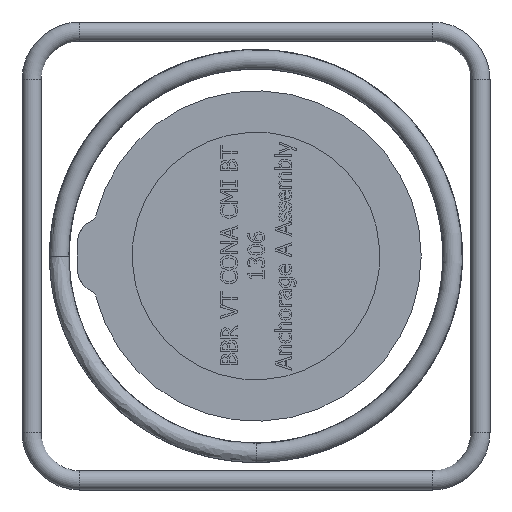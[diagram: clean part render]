
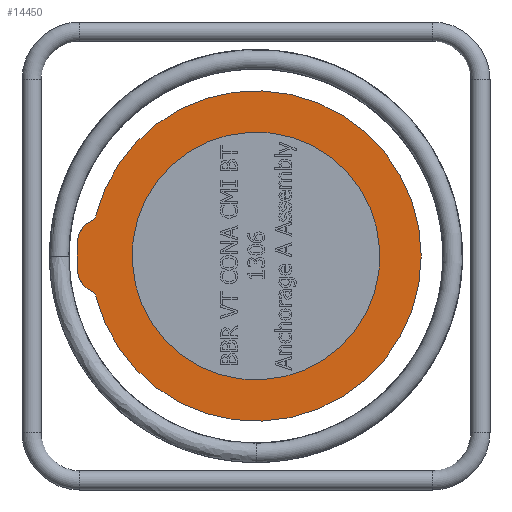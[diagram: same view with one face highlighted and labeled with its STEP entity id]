
A CAD part, left-side view. The second image highlights one B-rep face of the part: STEP entity #14450.
In plain terms, the highlighted planar face has unit normal (-1, 0, 0).
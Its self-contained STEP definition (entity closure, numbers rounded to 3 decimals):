
#2863=PLANE('',#15005);
#3659=FACE_BOUND('',#5274,.T.);
#4384=FACE_OUTER_BOUND('',#5273,.T.);
#5273=EDGE_LOOP('',(#12380,#12381,#12382,#12383,#12384,#12385,#12386,#12387));
#5274=EDGE_LOOP('',(#12388));
#5563=CIRCLE('',#15001,90.);
#5566=CIRCLE('',#15006,2.);
#5567=CIRCLE('',#15007,19.);
#5568=CIRCLE('',#15008,5.);
#5569=CIRCLE('',#15009,120.);
#5570=CIRCLE('',#15010,5.);
#5571=CIRCLE('',#15011,19.);
#5572=CIRCLE('',#15012,2.);
#5573=CIRCLE('',#15013,130.);
#6872=VERTEX_POINT('',#28430);
#6877=VERTEX_POINT('',#28462);
#6878=VERTEX_POINT('',#28463);
#6879=VERTEX_POINT('',#28465);
#6880=VERTEX_POINT('',#28467);
#6881=VERTEX_POINT('',#28469);
#6882=VERTEX_POINT('',#28471);
#6883=VERTEX_POINT('',#28473);
#6884=VERTEX_POINT('',#28475);
#8744=EDGE_CURVE('',#6872,#6872,#5563,.T.);
#8749=EDGE_CURVE('',#6877,#6878,#5566,.T.);
#8750=EDGE_CURVE('',#6879,#6877,#5567,.T.);
#8751=EDGE_CURVE('',#6880,#6879,#5568,.T.);
#8752=EDGE_CURVE('',#6881,#6880,#5569,.T.);
#8753=EDGE_CURVE('',#6882,#6881,#5570,.T.);
#8754=EDGE_CURVE('',#6883,#6882,#5571,.T.);
#8755=EDGE_CURVE('',#6884,#6883,#5572,.T.);
#8756=EDGE_CURVE('',#6884,#6878,#5573,.T.);
#12380=ORIENTED_EDGE('',*,*,#8749,.F.);
#12381=ORIENTED_EDGE('',*,*,#8750,.F.);
#12382=ORIENTED_EDGE('',*,*,#8751,.F.);
#12383=ORIENTED_EDGE('',*,*,#8752,.F.);
#12384=ORIENTED_EDGE('',*,*,#8753,.F.);
#12385=ORIENTED_EDGE('',*,*,#8754,.F.);
#12386=ORIENTED_EDGE('',*,*,#8755,.F.);
#12387=ORIENTED_EDGE('',*,*,#8756,.T.);
#12388=ORIENTED_EDGE('',*,*,#8744,.T.);
#14450=ADVANCED_FACE('',(#4384,#3659),#2863,.T.);
#15001=AXIS2_PLACEMENT_3D('',#28431,#17135,#17136);
#15005=AXIS2_PLACEMENT_3D('',#28461,#17143,#17144);
#15006=AXIS2_PLACEMENT_3D('',#28464,#17145,#17146);
#15007=AXIS2_PLACEMENT_3D('',#28466,#17147,#17148);
#15008=AXIS2_PLACEMENT_3D('',#28468,#17149,#17150);
#15009=AXIS2_PLACEMENT_3D('',#28470,#17151,#17152);
#15010=AXIS2_PLACEMENT_3D('',#28472,#17153,#17154);
#15011=AXIS2_PLACEMENT_3D('',#28474,#17155,#17156);
#15012=AXIS2_PLACEMENT_3D('',#28476,#17157,#17158);
#15013=AXIS2_PLACEMENT_3D('',#28477,#17159,#17160);
#17135=DIRECTION('center_axis',(1.,0.,0.));
#17136=DIRECTION('ref_axis',(0.,0.682,0.731));
#17143=DIRECTION('center_axis',(-1.,0.,0.));
#17144=DIRECTION('ref_axis',(0.,0.,1.));
#17145=DIRECTION('center_axis',(1.,0.,0.));
#17146=DIRECTION('ref_axis',(0.,0.981,-0.196));
#17147=DIRECTION('center_axis',(1.,0.,0.));
#17148=DIRECTION('ref_axis',(0.,0.737,-0.676));
#17149=DIRECTION('center_axis',(-1.,0.,0.));
#17150=DIRECTION('ref_axis',(0.,-0.773,0.634));
#17151=DIRECTION('center_axis',(1.,0.,0.));
#17152=DIRECTION('ref_axis',(0.,-1.,0.));
#17153=DIRECTION('center_axis',(-1.,0.,0.));
#17154=DIRECTION('ref_axis',(0.,-0.773,-0.634));
#17155=DIRECTION('center_axis',(1.,0.,0.));
#17156=DIRECTION('ref_axis',(0.,0.737,0.676));
#17157=DIRECTION('center_axis',(1.,0.,0.));
#17158=DIRECTION('ref_axis',(0.,0.981,0.196));
#17159=DIRECTION('center_axis',(-1.,0.,0.));
#17160=DIRECTION('ref_axis',(0.,1.,0.));
#28430=CARTESIAN_POINT('',(-126.129,-65.815,61.387));
#28431=CARTESIAN_POINT('Origin',(-126.129,0.,
0.));
#28461=CARTESIAN_POINT('Origin',(-126.129,-95.5,0.));
#28462=CARTESIAN_POINT('',(-126.129,129.209,-14.016));
#28463=CARTESIAN_POINT('',(-126.129,129.281,-13.655));
#28464=CARTESIAN_POINT('Origin',(-126.129,127.292,-13.445));
#28465=CARTESIAN_POINT('',(-126.129,119.136,-25.759));
#28466=CARTESIAN_POINT('Origin',(-126.129,111.,-8.59));
#28467=CARTESIAN_POINT('',(-126.129,116.427,-29.067));
#28468=CARTESIAN_POINT('Origin',(-126.129,121.278,-30.278));
#28469=CARTESIAN_POINT('',(-126.129,116.427,29.067));
#28470=CARTESIAN_POINT('Origin',(-126.129,0.,
0.));
#28471=CARTESIAN_POINT('',(-126.129,119.136,25.759));
#28472=CARTESIAN_POINT('Origin',(-126.129,121.278,30.278));
#28473=CARTESIAN_POINT('',(-126.129,129.209,14.016));
#28474=CARTESIAN_POINT('Origin',(-126.129,111.,8.59));
#28475=CARTESIAN_POINT('',(-126.129,129.281,13.655));
#28476=CARTESIAN_POINT('Origin',(-126.129,127.292,13.445));
#28477=CARTESIAN_POINT('Origin',(-126.129,0.,
0.));
